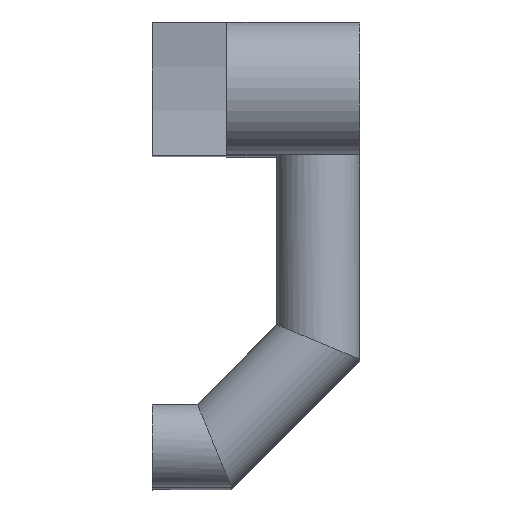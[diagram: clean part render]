
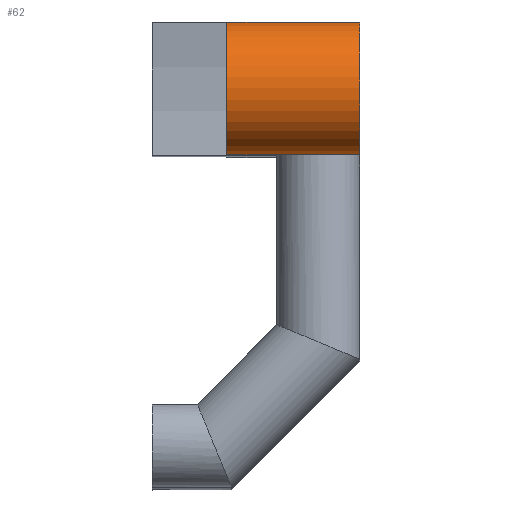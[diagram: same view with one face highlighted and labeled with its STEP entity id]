
A CAD part, top view. The second image highlights one B-rep face of the part: STEP entity #62.
In plain terms, the highlighted cylindrical face has radius 16 mm (diameter 32 mm), a full revolution.
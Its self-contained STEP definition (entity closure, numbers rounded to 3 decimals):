
#62=ADVANCED_FACE('',(#163,#165),#167,.T.);
#163=FACE_BOUND('',#164,.T.);
#164=EDGE_LOOP('',(#371,#372,#373,#374));
#165=FACE_OUTER_BOUND('',#166,.T.);
#166=EDGE_LOOP('',(#375));
#167=CYLINDRICAL_SURFACE('',#168,16.);
#168=AXIS2_PLACEMENT_3D('',#169,#170,#171);
#169=CARTESIAN_POINT('',(0.,0.,350.));
#170=DIRECTION('',(1.,0.,0.));
#171=DIRECTION('',(0.,1.,0.));
#371=ORIENTED_EDGE('',*,*,#455,.F.);
#372=ORIENTED_EDGE('',*,*,#457,.T.);
#373=ORIENTED_EDGE('',*,*,#458,.T.);
#374=ORIENTED_EDGE('',*,*,#436,.F.);
#375=ORIENTED_EDGE('',*,*,#459,.F.);
#436=EDGE_CURVE('',#494,#495,#496,.T.);
#455=EDGE_CURVE('',#526,#494,#528,.T.);
#457=EDGE_CURVE('',#526,#530,#531,.T.);
#458=EDGE_CURVE('',#530,#495,#532,.T.);
#459=EDGE_CURVE('',#533,#533,#534,.T.);
#494=VERTEX_POINT('',#603);
#495=VERTEX_POINT('',#604);
#496=CIRCLE('',#605,16.);
#526=VERTEX_POINT('',#680);
#528=LINE('',#684,#685);
#530=VERTEX_POINT('',#690);
#531=CIRCLE('',#691,16.);
#532=LINE('',#695,#696);
#533=VERTEX_POINT('',#698);
#534=CIRCLE('',#699,16.);
#603=CARTESIAN_POINT('',(10.,16.,350.));
#604=CARTESIAN_POINT('',(10.,-16.,350.));
#605=AXIS2_PLACEMENT_3D('',#606,#607,#608);
#606=CARTESIAN_POINT('',(10.,0.,350.));
#607=DIRECTION('',(1.,0.,0.));
#608=DIRECTION('',(0.,1.,0.));
#680=CARTESIAN_POINT('',(0.,16.,350.));
#684=CARTESIAN_POINT('',(0.,16.,350.));
#685=VECTOR('',#686,1.);
#686=DIRECTION('',(1.,0.,0.));
#690=CARTESIAN_POINT('',(0.,-16.,350.));
#691=AXIS2_PLACEMENT_3D('',#692,#693,#694);
#692=CARTESIAN_POINT('',(0.,0.,350.));
#693=DIRECTION('',(-1.,0.,0.));
#694=DIRECTION('',(0.,1.,0.));
#695=CARTESIAN_POINT('',(0.,-16.,350.));
#696=VECTOR('',#697,1.);
#697=DIRECTION('',(1.,0.,0.));
#698=CARTESIAN_POINT('',(-22.,16.,350.));
#699=AXIS2_PLACEMENT_3D('',#700,#701,#702);
#700=CARTESIAN_POINT('',(-22.,0.,350.));
#701=DIRECTION('',(-1.,0.,0.));
#702=DIRECTION('',(0.,1.,0.));
